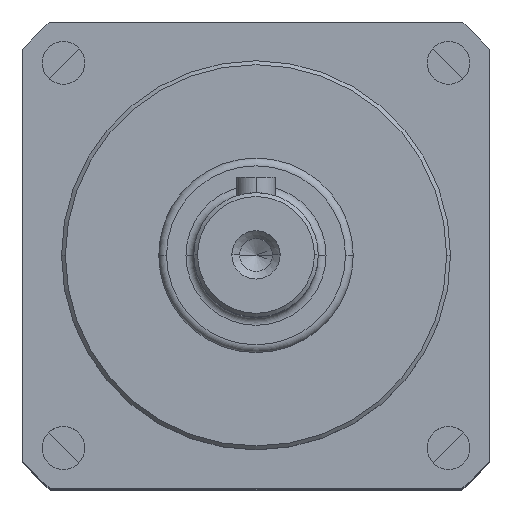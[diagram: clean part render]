
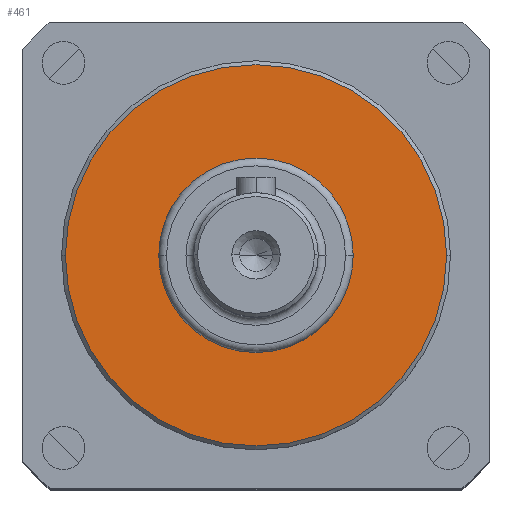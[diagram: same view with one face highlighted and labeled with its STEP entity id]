
A CAD part, top view. The second image highlights one B-rep face of the part: STEP entity #461.
In plain terms, the highlighted planar face has unit normal (0, 0, 1).
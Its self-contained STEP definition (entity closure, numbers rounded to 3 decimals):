
#50 = CARTESIAN_POINT ( 'NONE',  ( 0., 0., 13. ) ) ;
#187 = DIRECTION ( 'NONE',  ( 0., 0., 1. ) ) ;
#204 = CARTESIAN_POINT ( 'NONE',  ( 24.5, 0., 13. ) ) ;
#242 = CIRCLE ( 'NONE', #1948, 12.5 ) ;
#249 = DIRECTION ( 'NONE',  ( 1., 0., 0. ) ) ;
#461 = ADVANCED_FACE ( 'NONE', ( #2413, #3978 ), #1954, .T. ) ;
#479 = CARTESIAN_POINT ( 'NONE',  ( 0., 0., 13. ) ) ;
#575 = EDGE_CURVE ( 'NONE', #1575, #2681, #3743, .T. ) ;
#616 = ORIENTED_EDGE ( 'NONE', *, *, #575, .T. ) ;
#667 = AXIS2_PLACEMENT_3D ( 'NONE', #4614, #187, #2389 ) ;
#852 = DIRECTION ( 'NONE',  ( 0., 0., 1. ) ) ;
#976 = ORIENTED_EDGE ( 'NONE', *, *, #2212, .F. ) ;
#1166 = EDGE_LOOP ( 'NONE', ( #1885, #976 ) ) ;
#1212 = VERTEX_POINT ( 'NONE', #1367 ) ;
#1251 = CARTESIAN_POINT ( 'NONE',  ( 0., 0., 13. ) ) ;
#1367 = CARTESIAN_POINT ( 'NONE',  ( 12.5, 0., 13. ) ) ;
#1380 = DIRECTION ( 'NONE',  ( 0., 0., 1. ) ) ;
#1497 = AXIS2_PLACEMENT_3D ( 'NONE', #2104, #1380, #249 ) ;
#1547 = EDGE_LOOP ( 'NONE', ( #616, #2805 ) ) ;
#1575 = VERTEX_POINT ( 'NONE', #1576 ) ;
#1576 = CARTESIAN_POINT ( 'NONE',  ( -24.5, 0., 13. ) ) ;
#1641 = EDGE_CURVE ( 'NONE', #2306, #1212, #242, .T. ) ;
#1885 = ORIENTED_EDGE ( 'NONE', *, *, #1641, .F. ) ;
#1907 = DIRECTION ( 'NONE',  ( 0., 0., 1. ) ) ;
#1922 = DIRECTION ( 'NONE',  ( 1., 0., 0. ) ) ;
#1948 = AXIS2_PLACEMENT_3D ( 'NONE', #479, #852, #1922 ) ;
#1954 = PLANE ( 'NONE',  #4539 ) ;
#2104 = CARTESIAN_POINT ( 'NONE',  ( 0., 0., 13. ) ) ;
#2212 = EDGE_CURVE ( 'NONE', #1212, #2306, #3202, .T. ) ;
#2274 = EDGE_CURVE ( 'NONE', #2681, #1575, #2636, .T. ) ;
#2306 = VERTEX_POINT ( 'NONE', #4283 ) ;
#2389 = DIRECTION ( 'NONE',  ( 1., 0., 0. ) ) ;
#2413 = FACE_BOUND ( 'NONE', #1166, .T. ) ;
#2636 = CIRCLE ( 'NONE', #1497, 24.5 ) ;
#2681 = VERTEX_POINT ( 'NONE', #204 ) ;
#2805 = ORIENTED_EDGE ( 'NONE', *, *, #2274, .T. ) ;
#3145 = DIRECTION ( 'NONE',  ( 1., 0., 0. ) ) ;
#3202 = CIRCLE ( 'NONE', #3231, 12.5 ) ;
#3231 = AXIS2_PLACEMENT_3D ( 'NONE', #1251, #3492, #3145 ) ;
#3402 = DIRECTION ( 'NONE',  ( 1., 0., 0. ) ) ;
#3492 = DIRECTION ( 'NONE',  ( 0., 0., 1. ) ) ;
#3743 = CIRCLE ( 'NONE', #667, 24.5 ) ;
#3978 = FACE_OUTER_BOUND ( 'NONE', #1547, .T. ) ;
#4283 = CARTESIAN_POINT ( 'NONE',  ( -12.5, 0., 13. ) ) ;
#4539 = AXIS2_PLACEMENT_3D ( 'NONE', #50, #1907, #3402 ) ;
#4614 = CARTESIAN_POINT ( 'NONE',  ( 0., 0., 13. ) ) ;
